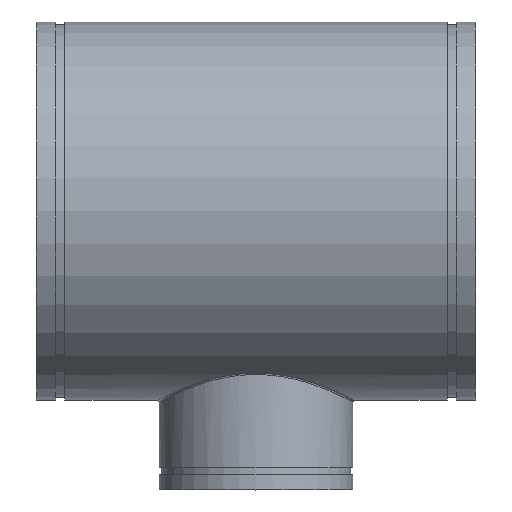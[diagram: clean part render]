
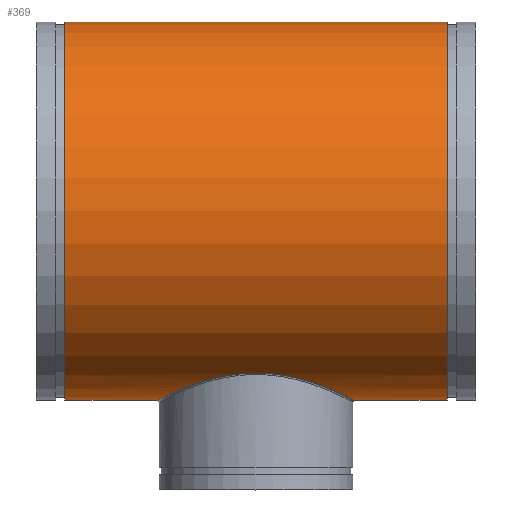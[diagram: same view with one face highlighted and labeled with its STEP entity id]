
A CAD part, top view. The second image highlights one B-rep face of the part: STEP entity #369.
In plain terms, the highlighted cylindrical face has radius 327.66 mm (diameter 655.32 mm), a full revolution.
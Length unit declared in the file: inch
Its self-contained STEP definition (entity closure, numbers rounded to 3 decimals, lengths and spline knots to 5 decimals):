
#54=FACE_BOUND('',#117,.T.);
#65=LINE('',#840,#75);
#75=VECTOR('',#477,12.9);
#85=CYLINDRICAL_SURFACE('',#409,12.9);
#96=FACE_OUTER_BOUND('',#116,.T.);
#116=EDGE_LOOP('',(#262,#263,#264,#265));
#117=EDGE_LOOP('',(#266));
#148=B_SPLINE_CURVE_WITH_KNOTS('',3,(#804,#805,#806,#807,#808,#809,#810,
#811,#812,#813,#814,#815,#816,#817,#818,#819,#820,#821,#822,#823,#824,#825,
#826,#827,#828,#829,#830,#831,#832,#833,#834,#835),.UNSPECIFIED.,.T.,.F.,
(4,1,1,1,1,1,1,1,1,1,1,1,1,1,1,1,1,1,1,1,1,1,1,1,1,1,1,1,1,4),(-103.21576,
-99.52949,-95.84321,-88.47065,-83.55562,
-81.0981,-78.64058,-76.18306,-73.72555,
-68.81051,-63.89547,-58.98044,-54.0654,
-51.60788,-49.15036,-46.69285,-44.23533,
-39.32029,-34.40525,-31.94774,-29.49022,
-27.0327,-25.80394,-25.18956,-24.57518,
-19.66015,-14.74511,-7.37255,-3.68628,
0.),.UNSPECIFIED.);
#152=CIRCLE('',#410,12.9);
#153=CIRCLE('',#411,12.9);
#180=VERTEX_POINT('',#764);
#183=VERTEX_POINT('',#837);
#184=VERTEX_POINT('',#839);
#216=EDGE_CURVE('',#180,#180,#148,.T.);
#217=EDGE_CURVE('',#183,#183,#152,.T.);
#218=EDGE_CURVE('',#183,#184,#65,.T.);
#219=EDGE_CURVE('',#184,#184,#153,.T.);
#262=ORIENTED_EDGE('',*,*,#217,.T.);
#263=ORIENTED_EDGE('',*,*,#218,.T.);
#264=ORIENTED_EDGE('',*,*,#219,.T.);
#265=ORIENTED_EDGE('',*,*,#218,.F.);
#266=ORIENTED_EDGE('',*,*,#216,.F.);
#369=ADVANCED_FACE('',(#96,#54),#85,.T.);
#409=AXIS2_PLACEMENT_3D('',#836,#473,#474);
#410=AXIS2_PLACEMENT_3D('',#838,#475,#476);
#411=AXIS2_PLACEMENT_3D('',#841,#478,#479);
#473=DIRECTION('center_axis',(-1.,0.,0.));
#474=DIRECTION('ref_axis',(0.,-1.,0.));
#475=DIRECTION('center_axis',(1.,0.,0.));
#476=DIRECTION('ref_axis',(0.,-1.,0.));
#477=DIRECTION('',(1.,0.,0.));
#478=DIRECTION('center_axis',(-1.,0.,0.));
#479=DIRECTION('ref_axis',(0.,-1.,0.));
#764=CARTESIAN_POINT('',(0.,-11.04755,-6.66046));
#804=CARTESIAN_POINT('Ctrl Pts',(0.,-11.04755,
-6.66046));
#805=CARTESIAN_POINT('Ctrl Pts',(0.51262,-11.04755,-6.66046));
#806=CARTESIAN_POINT('Ctrl Pts',(1.53738,-11.1192,-6.54345));
#807=CARTESIAN_POINT('Ctrl Pts',(3.44843,-11.505,-5.86755));
#808=CARTESIAN_POINT('Ctrl Pts',(5.14937,-12.14358,-4.51797));
#809=CARTESIAN_POINT('Ctrl Pts',(6.16906,-12.62176,-2.79589));
#810=CARTESIAN_POINT('Ctrl Pts',(6.57553,-12.82369,-1.51351));
#811=CARTESIAN_POINT('Ctrl Pts',(6.73151,-12.90338,-0.50965));
#812=CARTESIAN_POINT('Ctrl Pts',(6.73141,-12.90314,0.50946));
#813=CARTESIAN_POINT('Ctrl Pts',(6.52376,-12.79763,1.84883));
#814=CARTESIAN_POINT('Ctrl Pts',(5.89071,-12.48325,3.41274));
#815=CARTESIAN_POINT('Ctrl Pts',(4.63818,-11.94045,4.95365));
#816=CARTESIAN_POINT('Ctrl Pts',(2.99335,-11.3944,6.07421));
#817=CARTESIAN_POINT('Ctrl Pts',(1.36768,-11.09414,6.58299));
#818=CARTESIAN_POINT('Ctrl Pts',(-0.00022,-11.03202,
6.6863));
#819=CARTESIAN_POINT('Ctrl Pts',(-1.02507,-11.07892,6.60864));
#820=CARTESIAN_POINT('Ctrl Pts',(-2.01848,-11.21377,6.37979));
#821=CARTESIAN_POINT('Ctrl Pts',(-3.26697,-11.48573,5.88713));
#822=CARTESIAN_POINT('Ctrl Pts',(-4.63858,-11.94037,4.95401));
#823=CARTESIAN_POINT('Ctrl Pts',(-5.68167,-12.39265,3.66915));
#824=CARTESIAN_POINT('Ctrl Pts',(-6.27081,-12.67218,2.47476));
#825=CARTESIAN_POINT('Ctrl Pts',(-6.57548,-12.82376,1.51379));
#826=CARTESIAN_POINT('Ctrl Pts',(-6.70547,-12.88998,0.67693));
#827=CARTESIAN_POINT('Ctrl Pts',(-6.72828,-12.90169,0.08462));
#828=CARTESIAN_POINT('Ctrl Pts',(-6.72169,-12.89828,-0.25383));
#829=CARTESIAN_POINT('Ctrl Pts',(-6.67343,-12.87394,-1.09857));
#830=CARTESIAN_POINT('Ctrl Pts',(-6.33931,-12.70177,-2.50908));
#831=CARTESIAN_POINT('Ctrl Pts',(-5.14917,-12.14336,-4.51785));
#832=CARTESIAN_POINT('Ctrl Pts',(-3.44843,-11.50508,-5.86767));
#833=CARTESIAN_POINT('Ctrl Pts',(-1.53736,-11.11915,-6.54341));
#834=CARTESIAN_POINT('Ctrl Pts',(-0.51262,-11.04755,-6.66046));
#835=CARTESIAN_POINT('Ctrl Pts',(0.,-11.04755,
-6.66046));
#836=CARTESIAN_POINT('Origin',(15.,0.,0.));
#837=CARTESIAN_POINT('',(-13.035,12.9,0.));
#838=CARTESIAN_POINT('Origin',(-13.035,0.,0.));
#839=CARTESIAN_POINT('',(13.035,12.9,0.));
#840=CARTESIAN_POINT('',(15.,12.9,0.));
#841=CARTESIAN_POINT('Origin',(13.035,0.,0.));
